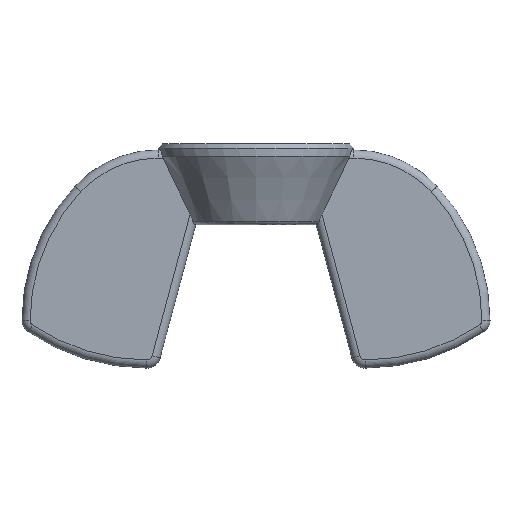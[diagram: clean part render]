
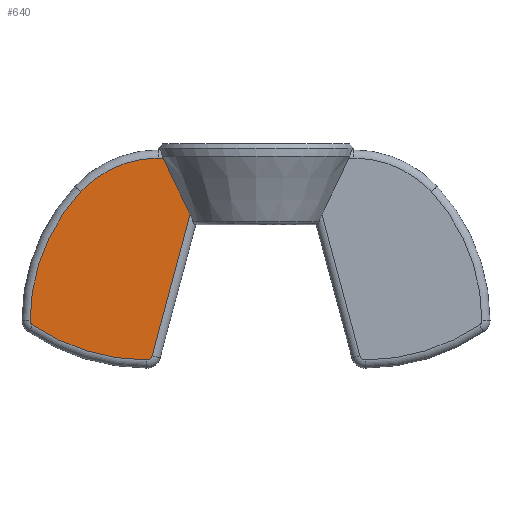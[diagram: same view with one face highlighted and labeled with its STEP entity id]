
A CAD part, front view. The second image highlights one B-rep face of the part: STEP entity #640.
In plain terms, the highlighted planar face has unit normal (0, -1, 0).
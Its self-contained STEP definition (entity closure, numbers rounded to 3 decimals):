
#34 = ORIENTED_EDGE ( 'NONE', *, *, #2735, .F. ) ;
#191 = CARTESIAN_POINT ( 'NONE',  ( -1.697, -1.125, -8.111 ) ) ;
#194 = VECTOR ( 'NONE', #1309, 1000. ) ;
#210 = DIRECTION ( 'NONE',  ( 0., 1., 0. ) ) ;
#220 = CIRCLE ( 'NONE', #2130, 0.25 ) ;
#263 = AXIS2_PLACEMENT_3D ( 'NONE', #804, #2700, #1090 ) ;
#292 = CARTESIAN_POINT ( 'NONE',  ( -4.769, -1.125, -9.74 ) ) ;
#360 = ORIENTED_EDGE ( 'NONE', *, *, #2579, .F. ) ;
#399 = ORIENTED_EDGE ( 'NONE', *, *, #1323, .F. ) ;
#425 = DIRECTION ( 'NONE',  ( 0., 1., 0. ) ) ;
#447 = CARTESIAN_POINT ( 'NONE',  ( -5.01, -1.125, -9.925 ) ) ;
#448 = DIRECTION ( 'NONE',  ( 0., 0., 1. ) ) ;
#547 = VERTEX_POINT ( 'NONE', #2292 ) ;
#550 = VERTEX_POINT ( 'NONE', #1235 ) ;
#594 = VERTEX_POINT ( 'NONE', #447 ) ;
#640 = ADVANCED_FACE ( 'NONE', ( #1828 ), #2436, .F. ) ;
#647 = VERTEX_POINT ( 'NONE', #292 ) ;
#662 = CARTESIAN_POINT ( 'NONE',  ( -3.446, -1.125, -2.386 ) ) ;
#702 = EDGE_CURVE ( 'NONE', #594, #547, #3014, .T. ) ;
#704 = CIRCLE ( 'NONE', #1257, 4.848 ) ;
#804 = CARTESIAN_POINT ( 'NONE',  ( -4.5, -1.125, -5.501 ) ) ;
#810 = VERTEX_POINT ( 'NONE', #1276 ) ;
#915 = AXIS2_PLACEMENT_3D ( 'NONE', #191, #2084, #448 ) ;
#1072 = CARTESIAN_POINT ( 'NONE',  ( -4.5, -1.125, -5.501 ) ) ;
#1090 = DIRECTION ( 'NONE',  ( 0., 0., 1. ) ) ;
#1157 = VERTEX_POINT ( 'NONE', #1253 ) ;
#1235 = CARTESIAN_POINT ( 'NONE',  ( -8.048, -1.125, -2.197 ) ) ;
#1253 = CARTESIAN_POINT ( 'NONE',  ( -3.029, -1.125, -3.248 ) ) ;
#1257 = AXIS2_PLACEMENT_3D ( 'NONE', #1072, #2976, #1349 ) ;
#1276 = CARTESIAN_POINT ( 'NONE',  ( -4.5, -1.125, -0.653 ) ) ;
#1289 = CIRCLE ( 'NONE', #1972, 0.25 ) ;
#1309 = DIRECTION ( 'NONE',  ( -0.259, 0., -0.966 ) ) ;
#1323 = EDGE_CURVE ( 'NONE', #647, #594, #220, .T. ) ;
#1349 = DIRECTION ( 'NONE',  ( 0., 0., 1. ) ) ;
#1508 = EDGE_CURVE ( 'NONE', #810, #3198, #2740, .T. ) ;
#1594 = AXIS2_PLACEMENT_3D ( 'NONE', #2057, #425, #2319 ) ;
#1596 = DIRECTION ( 'NONE',  ( 0., 1., 0. ) ) ;
#1675 = CARTESIAN_POINT ( 'NONE',  ( -10.375, -1.125, -8.111 ) ) ;
#1752 = CARTESIAN_POINT ( 'NONE',  ( -4.261, -1.125, -0.653 ) ) ;
#1782 = EDGE_LOOP ( 'NONE', ( #360, #1881, #3097, #3153, #34, #3271, #399, #1841 ) ) ;
#1828 = FACE_OUTER_BOUND ( 'NONE', #1782, .T. ) ;
#1829 = CARTESIAN_POINT ( 'NONE',  ( -10.125, -1.125, -8.111 ) ) ;
#1841 = ORIENTED_EDGE ( 'NONE', *, *, #3159, .F. ) ;
#1871 = EDGE_CURVE ( 'NONE', #550, #810, #704, .T. ) ;
#1881 = ORIENTED_EDGE ( 'NONE', *, *, #1508, .F. ) ;
#1972 = AXIS2_PLACEMENT_3D ( 'NONE', #1829, #210, #2097 ) ;
#2057 = CARTESIAN_POINT ( 'NONE',  ( -5.01, -1.125, -0.528 ) ) ;
#2084 = DIRECTION ( 'NONE',  ( 0., 1., 0. ) ) ;
#2097 = DIRECTION ( 'NONE',  ( 0., 0., 1. ) ) ;
#2130 = AXIS2_PLACEMENT_3D ( 'NONE', #3221, #1596, #3487 ) ;
#2292 = CARTESIAN_POINT ( 'NONE',  ( -10.265, -1.125, -8.319 ) ) ;
#2319 = DIRECTION ( 'NONE',  ( 0., 0., 1. ) ) ;
#2365 = B_SPLINE_CURVE_WITH_KNOTS ( 'NONE', 3,
 ( #1752, #3374, #662, #2571 ),
 .UNSPECIFIED., .F., .F.,
 ( 4, 4 ),
 ( 0.002, 0.005 ),
 .UNSPECIFIED. ) ;
#2366 = VERTEX_POINT ( 'NONE', #1675 ) ;
#2392 = CARTESIAN_POINT ( 'NONE',  ( -4.261, -1.125, -0.653 ) ) ;
#2413 = CARTESIAN_POINT ( 'NONE',  ( -4.5, -1.125, -0.653 ) ) ;
#2436 = PLANE ( 'NONE',  #263 ) ;
#2571 = CARTESIAN_POINT ( 'NONE',  ( -3.029, -1.125, -3.248 ) ) ;
#2579 = EDGE_CURVE ( 'NONE', #3198, #1157, #2365, .T. ) ;
#2653 = VECTOR ( 'NONE', #2695, 1000. ) ;
#2695 = DIRECTION ( 'NONE',  ( 1., 0., 0. ) ) ;
#2700 = DIRECTION ( 'NONE',  ( 0., 1., 0. ) ) ;
#2735 = EDGE_CURVE ( 'NONE', #547, #2366, #1289, .T. ) ;
#2740 = LINE ( 'NONE', #2413, #2653 ) ;
#2976 = DIRECTION ( 'NONE',  ( 0., 1., 0. ) ) ;
#2992 = LINE ( 'NONE', #3206, #194 ) ;
#3014 = CIRCLE ( 'NONE', #1594, 9.397 ) ;
#3072 = EDGE_CURVE ( 'NONE', #2366, #550, #3150, .T. ) ;
#3097 = ORIENTED_EDGE ( 'NONE', *, *, #1871, .F. ) ;
#3150 = CIRCLE ( 'NONE', #915, 8.678 ) ;
#3153 = ORIENTED_EDGE ( 'NONE', *, *, #3072, .F. ) ;
#3159 = EDGE_CURVE ( 'NONE', #1157, #647, #2992, .T. ) ;
#3198 = VERTEX_POINT ( 'NONE', #2392 ) ;
#3206 = CARTESIAN_POINT ( 'NONE',  ( -3.691, -1.125, -5.718 ) ) ;
#3221 = CARTESIAN_POINT ( 'NONE',  ( -5.01, -1.125, -9.675 ) ) ;
#3271 = ORIENTED_EDGE ( 'NONE', *, *, #702, .F. ) ;
#3374 = CARTESIAN_POINT ( 'NONE',  ( -3.855, -1.125, -1.52 ) ) ;
#3487 = DIRECTION ( 'NONE',  ( 0., 0., 1. ) ) ;
